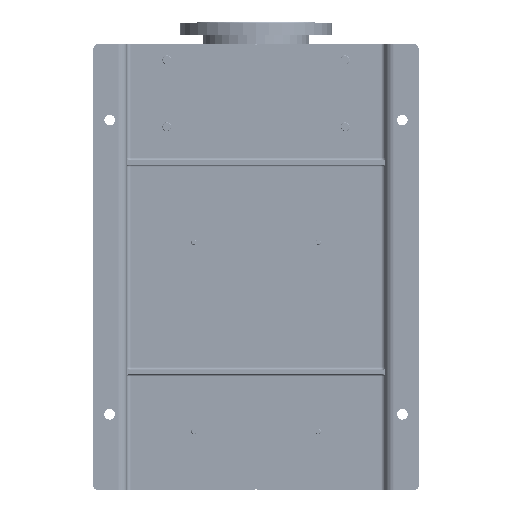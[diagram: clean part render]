
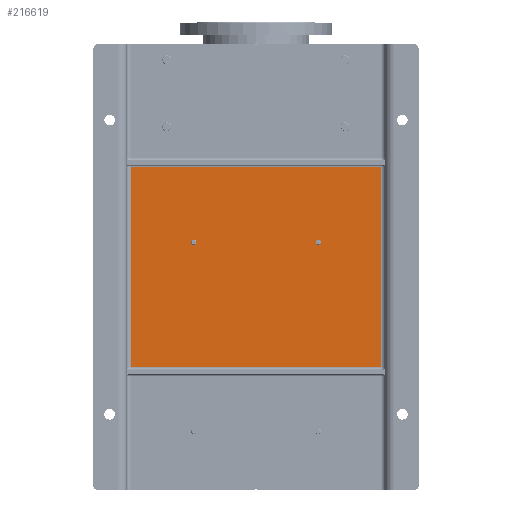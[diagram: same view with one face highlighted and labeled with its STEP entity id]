
A CAD part, front view. The second image highlights one B-rep face of the part: STEP entity #216619.
In plain terms, the highlighted planar face has unit normal (0, -1, 0).
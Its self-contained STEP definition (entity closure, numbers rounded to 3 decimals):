
#497 = AXIS2_PLACEMENT_3D ( 'NONE', #45635, #140114, #141397 ) ;
#4134 = VERTEX_POINT ( 'NONE', #246380 ) ;
#5091 = CARTESIAN_POINT ( 'NONE',  ( 645., 90., -275. ) ) ;
#13180 = ORIENTED_EDGE ( 'NONE', *, *, #54878, .T. ) ;
#16044 = EDGE_CURVE ( 'NONE', #45261, #48031, #119784, .T. ) ;
#25715 = AXIS2_PLACEMENT_3D ( 'NONE', #154535, #36793, #31691 ) ;
#29008 = PLANE ( 'NONE',  #193250 ) ;
#29236 = LINE ( 'NONE', #88745, #243478 ) ;
#31278 = CARTESIAN_POINT ( 'NONE',  ( 504.5, 90., -444. ) ) ;
#31691 = DIRECTION ( 'NONE',  ( -1., 0., 0. ) ) ;
#34432 = VERTEX_POINT ( 'NONE', #36573 ) ;
#36573 = CARTESIAN_POINT ( 'NONE',  ( 231.5, 90., -444. ) ) ;
#36793 = DIRECTION ( 'NONE',  ( 0., 1., 0. ) ) ;
#37979 = VERTEX_POINT ( 'NONE', #225108 ) ;
#40323 = CARTESIAN_POINT ( 'NONE',  ( 510.5, 90., -444. ) ) ;
#42313 = CIRCLE ( 'NONE', #25715, 6. ) ;
#45261 = VERTEX_POINT ( 'NONE', #40323 ) ;
#45635 = CARTESIAN_POINT ( 'NONE',  ( 225.5, 90., -444. ) ) ;
#46602 = VERTEX_POINT ( 'NONE', #5091 ) ;
#47170 = DIRECTION ( 'NONE',  ( 0., -1., 0. ) ) ;
#48031 = VERTEX_POINT ( 'NONE', #110671 ) ;
#48110 = EDGE_CURVE ( 'NONE', #37979, #87841, #29236, .T. ) ;
#54878 = EDGE_CURVE ( 'NONE', #46602, #37979, #142784, .T. ) ;
#56205 = EDGE_LOOP ( 'NONE', ( #103639, #83219 ) ) ;
#71947 = ORIENTED_EDGE ( 'NONE', *, *, #157501, .T. ) ;
#76914 = ORIENTED_EDGE ( 'NONE', *, *, #121223, .T. ) ;
#82346 = EDGE_CURVE ( 'NONE', #4134, #34432, #90617, .T. ) ;
#83219 = ORIENTED_EDGE ( 'NONE', *, *, #110298, .T. ) ;
#84688 = CARTESIAN_POINT ( 'NONE',  ( 75., 90., -1000. ) ) ;
#87817 = EDGE_LOOP ( 'NONE', ( #242899, #208599 ) ) ;
#87841 = VERTEX_POINT ( 'NONE', #150502 ) ;
#88745 = CARTESIAN_POINT ( 'NONE',  ( 85., 90., -730. ) ) ;
#90617 = CIRCLE ( 'NONE', #160957, 6. ) ;
#99224 = CARTESIAN_POINT ( 'NONE',  ( 225.5, 90., -444. ) ) ;
#99900 = CARTESIAN_POINT ( 'NONE',  ( 645., 90., -725. ) ) ;
#103639 = ORIENTED_EDGE ( 'NONE', *, *, #82346, .T. ) ;
#110298 = EDGE_CURVE ( 'NONE', #34432, #4134, #111977, .T. ) ;
#110671 = CARTESIAN_POINT ( 'NONE',  ( 498.5, 90., -444. ) ) ;
#111977 = CIRCLE ( 'NONE', #497, 6. ) ;
#112743 = DIRECTION ( 'NONE',  ( 0., 1., 0. ) ) ;
#115557 = DIRECTION ( 'NONE',  ( 1., 0., 0. ) ) ;
#119784 = CIRCLE ( 'NONE', #132112, 6. ) ;
#121223 = EDGE_CURVE ( 'NONE', #87841, #148671, #134971, .T. ) ;
#122525 = LINE ( 'NONE', #183255, #193596 ) ;
#124677 = CARTESIAN_POINT ( 'NONE',  ( 75., 90., -275. ) ) ;
#132112 = AXIS2_PLACEMENT_3D ( 'NONE', #31278, #112743, #190369 ) ;
#134971 = LINE ( 'NONE', #155675, #251445 ) ;
#140114 = DIRECTION ( 'NONE',  ( 0., 1., 0. ) ) ;
#141397 = DIRECTION ( 'NONE',  ( 1., 0., 0. ) ) ;
#142784 = LINE ( 'NONE', #124677, #216109 ) ;
#142964 = ORIENTED_EDGE ( 'NONE', *, *, #48110, .T. ) ;
#146738 = DIRECTION ( 'NONE',  ( 0., 0., -1. ) ) ;
#148671 = VERTEX_POINT ( 'NONE', #99900 ) ;
#150502 = CARTESIAN_POINT ( 'NONE',  ( 85., 90., -725. ) ) ;
#154535 = CARTESIAN_POINT ( 'NONE',  ( 504.5, 90., -444. ) ) ;
#155675 = CARTESIAN_POINT ( 'NONE',  ( 75., 90., -725. ) ) ;
#157461 = DIRECTION ( 'NONE',  ( 1., 0., 0. ) ) ;
#157501 = EDGE_CURVE ( 'NONE', #148671, #46602, #122525, .T. ) ;
#160957 = AXIS2_PLACEMENT_3D ( 'NONE', #99224, #255739, #157461 ) ;
#164906 = FACE_BOUND ( 'NONE', #87817, .T. ) ;
#182637 = EDGE_LOOP ( 'NONE', ( #142964, #76914, #71947, #13180 ) ) ;
#182997 = FACE_OUTER_BOUND ( 'NONE', #182637, .T. ) ;
#183255 = CARTESIAN_POINT ( 'NONE',  ( 645., 90., -270. ) ) ;
#190369 = DIRECTION ( 'NONE',  ( -1., 0., 0. ) ) ;
#193250 = AXIS2_PLACEMENT_3D ( 'NONE', #84688, #47170, #146738 ) ;
#193596 = VECTOR ( 'NONE', #223372, 1000. ) ;
#208599 = ORIENTED_EDGE ( 'NONE', *, *, #16044, .T. ) ;
#216109 = VECTOR ( 'NONE', #239795, 1000. ) ;
#216619 = ADVANCED_FACE ( 'NONE', ( #224385, #164906, #182997 ), #29008, .T. ) ;
#223372 = DIRECTION ( 'NONE',  ( 0., 0., 1. ) ) ;
#224385 = FACE_BOUND ( 'NONE', #56205, .T. ) ;
#225108 = CARTESIAN_POINT ( 'NONE',  ( 85., 90., -275. ) ) ;
#234453 = DIRECTION ( 'NONE',  ( 0., 0., -1. ) ) ;
#239795 = DIRECTION ( 'NONE',  ( -1., 0., 0. ) ) ;
#242899 = ORIENTED_EDGE ( 'NONE', *, *, #252973, .T. ) ;
#243478 = VECTOR ( 'NONE', #234453, 1000. ) ;
#246380 = CARTESIAN_POINT ( 'NONE',  ( 219.5, 90., -444. ) ) ;
#251445 = VECTOR ( 'NONE', #115557, 1000. ) ;
#252973 = EDGE_CURVE ( 'NONE', #48031, #45261, #42313, .T. ) ;
#255739 = DIRECTION ( 'NONE',  ( 0., 1., 0. ) ) ;
